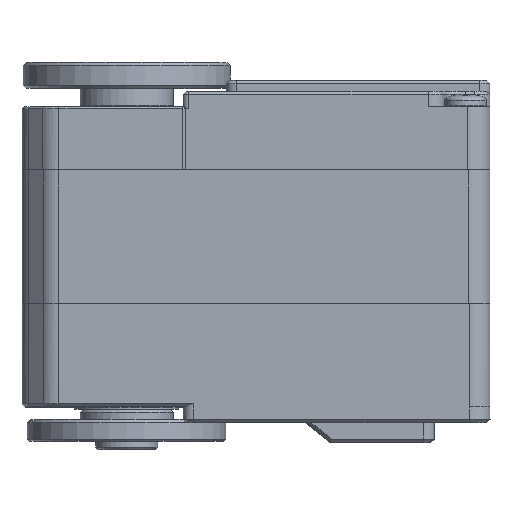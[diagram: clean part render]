
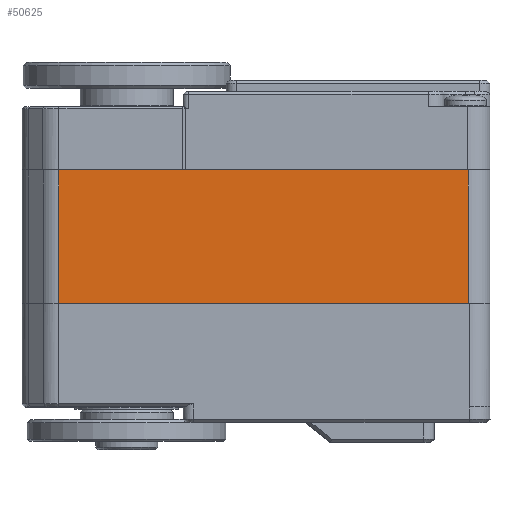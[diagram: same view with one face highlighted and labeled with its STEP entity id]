
A CAD part, top view. The second image highlights one B-rep face of the part: STEP entity #50625.
In plain terms, the highlighted planar face has unit normal (0, 0, 1).
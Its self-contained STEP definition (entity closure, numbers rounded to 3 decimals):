
#49345=DIRECTION('',(0.,-1.,0.));
#49346=VECTOR('',#49345,12.9);
#49347=CARTESIAN_POINT('',(-32.072,-1.2,12.36));
#49348=LINE('',#49347,#49346);
#49499=DIRECTION('',(0.,1.,0.));
#49500=VECTOR('',#49499,12.9);
#49501=CARTESIAN_POINT('',(7.5,-14.1,12.36));
#49502=LINE('',#49501,#49500);
#49503=DIRECTION('',(1.,0.,0.));
#49504=VECTOR('',#49503,39.572);
#49505=CARTESIAN_POINT('',(-32.072,-1.2,12.36));
#49506=LINE('',#49505,#49504);
#49507=DIRECTION('',(-1.,0.,0.));
#49508=VECTOR('',#49507,39.572);
#49509=CARTESIAN_POINT('',(7.5,-14.1,12.36));
#49510=LINE('',#49509,#49508);
#49780=CARTESIAN_POINT('',(-32.072,-14.1,12.36));
#49782=VERTEX_POINT('',#49780);
#49783=CARTESIAN_POINT('',(7.5,-14.1,12.36));
#49784=VERTEX_POINT('',#49783);
#49821=CARTESIAN_POINT('',(-32.072,-1.2,12.36));
#49823=VERTEX_POINT('',#49821);
#49841=CARTESIAN_POINT('',(7.5,-1.2,12.36));
#49842=VERTEX_POINT('',#49841);
#50614=CARTESIAN_POINT('',(7.5,-1.2,12.36));
#50615=DIRECTION('',(0.,0.,-1.));
#50616=DIRECTION('',(-1.,0.,0.));
#50617=AXIS2_PLACEMENT_3D('',#50614,#50615,#50616);
#50618=PLANE('',#50617);
#50619=ORIENTED_EDGE('',*,*,#50379,.T.);
#50620=ORIENTED_EDGE('',*,*,#50602,.F.);
#50621=ORIENTED_EDGE('',*,*,#50273,.T.);
#50622=ORIENTED_EDGE('',*,*,#50343,.F.);
#50623=EDGE_LOOP('',(#50619,#50620,#50621,#50622));
#50624=FACE_OUTER_BOUND('',#50623,.F.);
#50273=EDGE_CURVE('',#49784,#49782,#49510,.T.);
#50343=EDGE_CURVE('',#49823,#49782,#49348,.T.);
#50379=EDGE_CURVE('',#49823,#49842,#49506,.T.);
#50602=EDGE_CURVE('',#49784,#49842,#49502,.T.);
#50625=ADVANCED_FACE('',(#50624),#50618,.F.);
